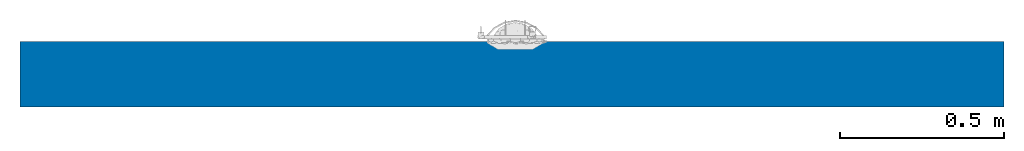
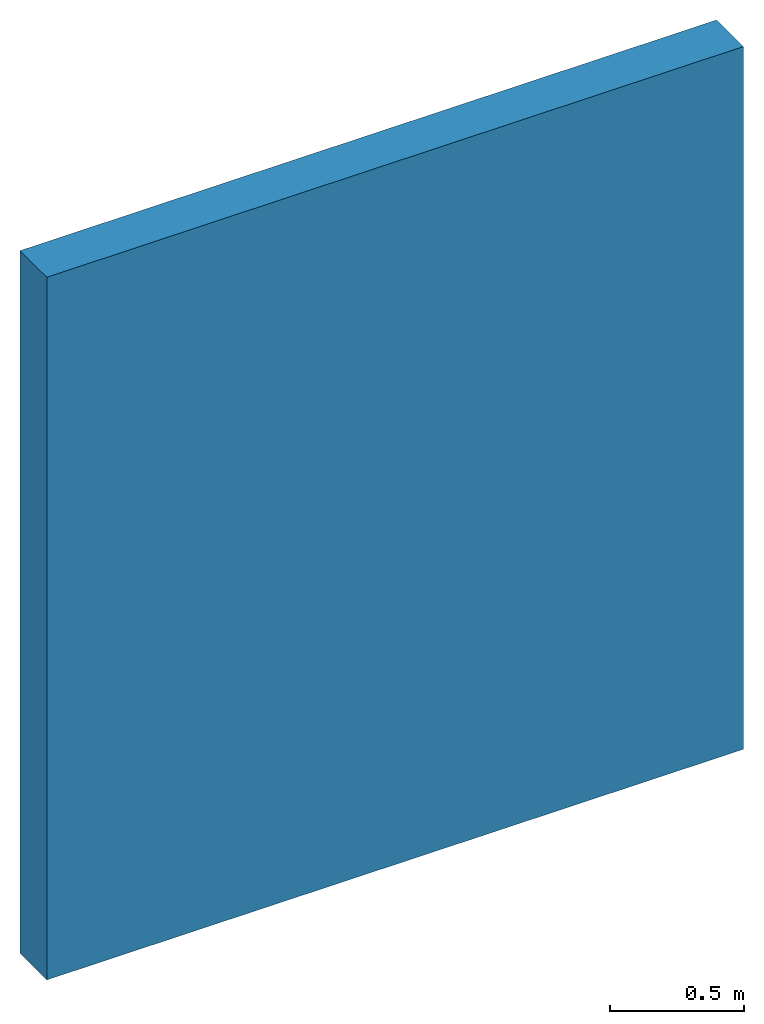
# One storey, incomplete: 1 wall.
"""IFC2X3 building model written with IfcOpenShell, lengths in metres."""

from ifc_helpers import new_model, si_unit, direction, frame, frame_2d, origin, place, context, subcontext, project, spatial, rectangle, extrude, material, layer, layer_set, layer_usage, type_object, element, save


model = new_model("IFC2X3")

# Units and contexts
model_context = context("Model", 3, precision=1e-05, world=origin(), true_north=direction((6.123233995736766e-17, 1.0)))
body_context = subcontext(model_context, "Body", "Model", "MODEL_VIEW")
ifc_project = project(units=[si_unit("LENGTHUNIT", "METRE"), si_unit("AREAUNIT", "SQUARE_METRE")], contexts=[model_context])

# Site, building, storey
site_placement = place(None, origin())
site = spatial("IfcSite", under=ifc_project, at=site_placement, Name="Default", CompositionType="ELEMENT")
building_placement = place(site_placement, origin())
building = spatial("IfcBuilding", under=site, at=building_placement, CompositionType="ELEMENT")
storey_placement = place(building_placement, origin())
storey = spatial("IfcBuildingStorey", under=building, at=storey_placement, Name="Level 1", CompositionType="ELEMENT", Elevation=0.0)

# Wall
ifc_material = material(Name="Default Wall")
ifc_layer = layer(ifc_material, 0.2)
ifc_layer_set = layer_set([ifc_layer], Name="Basic Wall:Wall 20cm2")
ifc_layer_usage = layer_usage(ifc_layer_set, "AXIS2", "NEGATIVE", 0.1)
wall_type = type_object("IfcWallType", Name="Basic Wall:Wall 20cm2", PredefinedType="STANDARD", material=ifc_layer_set)
wall_placement = place(storey_placement, frame((-7.5727290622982, 3.462330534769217, 0.0)))
element("IfcWallStandardCase", 1, at=wall_placement, inside=storey, type_object=wall_type, material=ifc_layer_usage, Name="Basic Wall:Wall 20cm2", ObjectType="Basic Wall:Wall 20cm2", context=body_context, shape_type="SweptSolid", body=[
    extrude(rectangle(XDim=3.0000000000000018, YDim=0.2, at=frame_2d((1.5000000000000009, -8.326672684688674e-17), x_axis=(-1.0, 0.0))), origin(), (0.0, 0.0, 1.0), 3.2),
])

save(model, "model.ifc")
